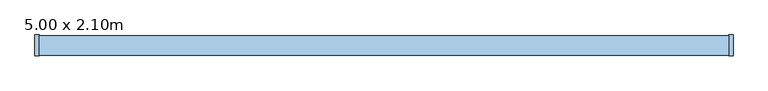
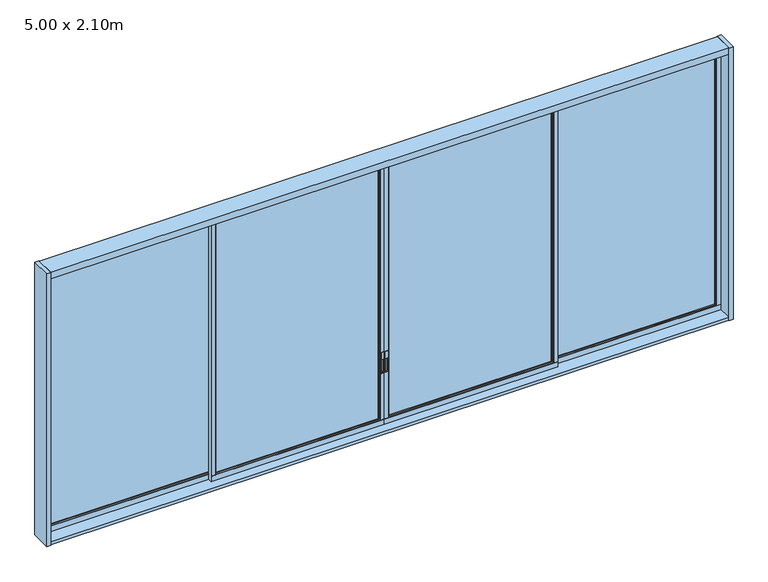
"""IFC4 building model written with IfcOpenShell, lengths in millimetres: window geometry, Janela correr - vidro c.perfil 4 folhas centrais : 5.00 x 2.10m."""

from ifc_helpers import new_model, si_unit, frame, origin, place, context, project, spatial, polyline, outline, extrude, faceted_brep, source, transform, mapped, element, save


def window_5_00_x_2_10m_6df3651b(model_context):
    return source(origin(), model_context, "Body", "SolidModel", [
        extrude(outline(polyline([(1585.0, 5.0), (1425.0, 5.0), (1425.0, 25.0), (1585.0, 25.0), (1585.0, 5.0)]), holes=[polyline([(1529.4849874, 20.7469534), (1434.0872422, 20.7469534), (1434.0872422, 9.1918677), (1529.4849874, 9.1918677), (1529.4849874, 20.7469534)])]), frame((0.0, -7.3991119, 0.0), z_axis=(0.0, 1.0, 0.0), x_axis=(0.0, 0.0, 1.0)), (0.0, 0.0, 1.0), 2.3991119),
        extrude(outline(polyline([(40.0, 7.672758), (40.0, 12.9358747), (1222.5, 12.9358747), (1222.5, 7.672758), (40.0, 7.672758)])), frame((0.0, 0.0, 1075.0), z_axis=(0.0, 0.0, 1.0), x_axis=(1.0, 0.0, 0.0)), (0.0, 0.0, 1.0), 1925.0),
        faceted_brep([(1262.5, -5.0, 3050.0), (1262.5, -5.0, 3010.0), (1262.5, -4.375, 3010.0), (1262.5, -4.375, 1065.0), (1262.5, -5.0, 1065.0), (1262.5, -5.0, 1025.0), (1262.5, 25.0, 1025.0), (1262.5, 25.0, 1065.0), (1262.5, 24.375, 1065.0), (1262.5, 24.375, 3010.0), (1262.5, 25.0, 3010.0), (1262.5, 25.0, 3050.0), (0.0, -5.0, 3050.0), (0.0, 25.0, 3050.0), (0.0, 25.0, 3010.0), (0.0, 23.75, 3010.0), (0.0, 23.75, 1065.0), (0.0, 25.0, 1065.0), (0.0, 25.0, 1025.0), (0.0, -5.0, 1025.0), (0.0, -5.0, 1065.0), (0.0, -3.75, 1065.0), (0.0, -3.75, 3010.0), (0.0, -5.0, 3010.0), (1232.5, 24.375, 3010.0), (1232.5, 20.0, 3010.0), (30.0, 20.0, 3010.0), (30.0, 23.75, 3010.0), (1232.5, 20.0, 1065.0), (30.0, 20.0, 1065.0), (40.0, 20.0, 3000.0), (40.0, 20.0, 1075.0), (1222.5, 20.0, 1075.0), (1222.5, 20.0, 3000.0), (1222.5, 0.0, 3000.0), (40.0, 0.0, 3000.0), (30.0, 0.0, 3010.0), (30.0, 0.0, 1065.0), (1232.5, 0.0, 1065.0), (1232.5, 0.0, 3010.0), (1222.5, 0.0, 1075.0), (40.0, 0.0, 1075.0), (30.0, -3.75, 3010.0), (1232.5, -4.375, 3010.0), (1232.5, 24.375, 1065.0), (1232.5, -4.375, 1065.0), (30.0, 23.75, 1065.0), (30.0, -3.75, 1065.0)], [[[0, 1, 2, 3, 4, 5, 6, 7, 8, 9, 10, 11]], [[12, 13, 14, 15, 16, 17, 18, 19, 20, 21, 22, 23]], [[11, 13, 12, 0]], [[10, 14, 13, 11]], [[10, 9, 24, 25, 26, 27, 15, 14]], [[25, 28, 29, 26], [30, 31, 32, 33]], [[34, 35, 30, 33]], [[36, 37, 38, 39], [34, 40, 41, 35]], [[23, 22, 42, 36, 39, 43, 2, 1]], [[0, 12, 23, 1]], [[8, 44, 24, 9]], [[44, 28, 25, 24]], [[33, 32, 40, 34]], [[43, 39, 38, 45]], [[2, 43, 45, 3]], [[15, 27, 46, 16]], [[27, 26, 29, 46]], [[35, 41, 31, 30]], [[47, 37, 36, 42]], [[21, 47, 42, 22]], [[18, 6, 5, 19]], [[17, 7, 6, 18]], [[17, 16, 46, 29, 28, 44, 8, 7]], [[40, 32, 31, 41]], [[4, 3, 45, 38, 37, 47, 21, 20]], [[19, 5, 4, 20]]]),
        extrude(outline(polyline([(1585.0, -5.0), (1585.0, -25.0), (1425.0, -25.0), (1425.0, -5.0), (1585.0, -5.0)]), holes=[polyline([(1529.4849874, -20.7469534), (1529.4849874, -9.1918677), (1434.0872422, -9.1918677), (1434.0872422, -20.7469534), (1529.4849874, -20.7469534)])]), frame((0.0, -7.3991119, 0.0), z_axis=(0.0, 1.0, 0.0), x_axis=(0.0, 0.0, 1.0)), (0.0, 0.0, 1.0), 2.3991119),
        extrude(outline(polyline([(-40.0, 7.672758), (-1222.5, 7.672758), (-1222.5, 12.9358747), (-40.0, 12.9358747), (-40.0, 7.672758)])), frame((0.0, 0.0, 1075.0), z_axis=(0.0, 0.0, 1.0), x_axis=(1.0, 0.0, 0.0)), (0.0, 0.0, 1.0), 1925.0),
        faceted_brep([(-1262.5, -5.0, 3050.0), (-1262.5, 25.0, 3050.0), (-1262.5, 25.0, 3010.0), (-1262.5, 24.375, 3010.0), (-1262.5, 24.375, 1065.0), (-1262.5, 25.0, 1065.0), (-1262.5, 25.0, 1025.0), (-1262.5, -5.0, 1025.0), (-1262.5, -5.0, 1065.0), (-1262.5, -4.375, 1065.0), (-1262.5, -4.375, 3010.0), (-1262.5, -5.0, 3010.0), (0.0, -5.0, 3050.0), (0.0, -5.0, 3010.0), (0.0, -3.75, 3010.0), (0.0, -3.75, 1065.0), (0.0, -5.0, 1065.0), (0.0, -5.0, 1025.0), (0.0, 25.0, 1025.0), (0.0, 25.0, 1065.0), (0.0, 23.75, 1065.0), (0.0, 23.75, 3010.0), (0.0, 25.0, 3010.0), (0.0, 25.0, 3050.0), (-30.0, 23.75, 3010.0), (-30.0, 20.0, 3010.0), (-1232.5, 20.0, 3010.0), (-1232.5, 24.375, 3010.0), (-30.0, 20.0, 1065.0), (-1232.5, 20.0, 1065.0), (-40.0, 20.0, 3000.0), (-1222.5, 20.0, 3000.0), (-1222.5, 20.0, 1075.0), (-40.0, 20.0, 1075.0), (-1222.5, 0.0, 3000.0), (-40.0, 0.0, 3000.0), (-30.0, 0.0, 3010.0), (-1232.5, 0.0, 3010.0), (-1232.5, 0.0, 1065.0), (-30.0, 0.0, 1065.0), (-40.0, 0.0, 1075.0), (-1222.5, 0.0, 1075.0), (-1232.5, -4.375, 3010.0), (-30.0, -3.75, 3010.0), (-1232.5, 24.375, 1065.0), (-1232.5, -4.375, 1065.0), (-30.0, 23.75, 1065.0), (-30.0, -3.75, 1065.0)], [[[0, 1, 2, 3, 4, 5, 6, 7, 8, 9, 10, 11]], [[12, 13, 14, 15, 16, 17, 18, 19, 20, 21, 22, 23]], [[1, 0, 12, 23]], [[2, 1, 23, 22]], [[2, 22, 21, 24, 25, 26, 27, 3]], [[26, 25, 28, 29], [30, 31, 32, 33]], [[34, 31, 30, 35]], [[36, 37, 38, 39], [34, 35, 40, 41]], [[13, 11, 10, 42, 37, 36, 43, 14]], [[0, 11, 13, 12]], [[4, 3, 27, 44]], [[44, 27, 26, 29]], [[31, 34, 41, 32]], [[42, 45, 38, 37]], [[10, 9, 45, 42]], [[21, 20, 46, 24]], [[24, 46, 28, 25]], [[35, 30, 33, 40]], [[47, 43, 36, 39]], [[15, 14, 43, 47]], [[18, 17, 7, 6]], [[19, 18, 6, 5]], [[19, 5, 4, 44, 29, 28, 46, 20]], [[41, 40, 33, 32]], [[8, 16, 15, 47, 39, 38, 45, 9]], [[17, 16, 8, 7]]]),
        extrude(outline(polyline([(2430.0, 37.672758), (1247.5, 37.672758), (1247.5, 42.9358747), (2430.0, 42.9358747), (2430.0, 37.672758)])), frame((0.0, 0.0, 1075.0), z_axis=(0.0, 0.0, 1.0), x_axis=(1.0, 0.0, 0.0)), (0.0, 0.0, 1.0), 1925.0),
        faceted_brep([(1207.5, 25.0, 3050.0), (1207.5, 55.0, 3050.0), (1207.5, 55.0, 3010.0), (1207.5, 54.375, 3010.0), (1207.5, 54.375, 1065.0), (1207.5, 55.0, 1065.0), (1207.5, 55.0, 1025.0), (1207.5, 25.0, 1025.0), (1207.5, 25.0, 1065.0), (1207.5, 25.625, 1065.0), (1207.5, 25.625, 3010.0), (1207.5, 25.0, 3010.0), (2470.0, 25.0, 3050.0), (2470.0, 25.0, 3010.0), (2470.0, 26.25, 3010.0), (2470.0, 26.25, 1065.0), (2470.0, 25.0, 1065.0), (2470.0, 25.0, 1025.0), (2470.0, 55.0, 1025.0), (2470.0, 55.0, 1065.0), (2470.0, 53.75, 1065.0), (2470.0, 53.75, 3010.0), (2470.0, 55.0, 3010.0), (2470.0, 55.0, 3050.0), (2440.0, 53.75, 3010.0), (2440.0, 50.0, 3010.0), (1237.5, 50.0, 3010.0), (1237.5, 54.375, 3010.0), (2440.0, 50.0, 1065.0), (1237.5, 50.0, 1065.0), (2430.0, 50.0, 3000.0), (1247.5, 50.0, 3000.0), (1247.5, 50.0, 1075.0), (2430.0, 50.0, 1075.0), (1247.5, 30.0, 3000.0), (2430.0, 30.0, 3000.0), (2440.0, 30.0, 3010.0), (1237.5, 30.0, 3010.0), (1237.5, 30.0, 1065.0), (2440.0, 30.0, 1065.0), (2430.0, 30.0, 1075.0), (1247.5, 30.0, 1075.0), (1237.5, 25.625, 3010.0), (2440.0, 26.25, 3010.0), (1237.5, 54.375, 1065.0), (1237.5, 25.625, 1065.0), (2440.0, 53.75, 1065.0), (2440.0, 26.25, 1065.0)], [[[0, 1, 2, 3, 4, 5, 6, 7, 8, 9, 10, 11]], [[12, 13, 14, 15, 16, 17, 18, 19, 20, 21, 22, 23]], [[1, 0, 12, 23]], [[2, 1, 23, 22]], [[2, 22, 21, 24, 25, 26, 27, 3]], [[26, 25, 28, 29], [30, 31, 32, 33]], [[34, 31, 30, 35]], [[36, 37, 38, 39], [34, 35, 40, 41]], [[13, 11, 10, 42, 37, 36, 43, 14]], [[0, 11, 13, 12]], [[4, 3, 27, 44]], [[44, 27, 26, 29]], [[31, 34, 41, 32]], [[42, 45, 38, 37]], [[10, 9, 45, 42]], [[21, 20, 46, 24]], [[24, 46, 28, 25]], [[35, 30, 33, 40]], [[47, 43, 36, 39]], [[15, 14, 43, 47]], [[18, 17, 7, 6]], [[19, 18, 6, 5]], [[19, 5, 4, 44, 29, 28, 46, 20]], [[41, 40, 33, 32]], [[8, 16, 15, 47, 39, 38, 45, 9]], [[17, 16, 8, 7]]]),
        extrude(outline(polyline([(-1247.5, 37.672758), (-2430.0, 37.672758), (-2430.0, 42.9358747), (-1247.5, 42.9358747), (-1247.5, 37.672758)])), frame((0.0, 0.0, 1075.0), z_axis=(0.0, 0.0, 1.0), x_axis=(1.0, 0.0, 0.0)), (0.0, 0.0, 1.0), 1925.0),
        faceted_brep([(-2470.0, 25.0, 3050.0), (-2470.0, 55.0, 3050.0), (-2470.0, 55.0, 3010.0), (-2470.0, 54.375, 3010.0), (-2470.0, 54.375, 1065.0), (-2470.0, 55.0, 1065.0), (-2470.0, 55.0, 1025.0), (-2470.0, 25.0, 1025.0), (-2470.0, 25.0, 1065.0), (-2470.0, 25.625, 1065.0), (-2470.0, 25.625, 3010.0), (-2470.0, 25.0, 3010.0), (-1207.5, 25.0, 3050.0), (-1207.5, 25.0, 3010.0), (-1207.5, 26.25, 3010.0), (-1207.5, 26.25, 1065.0), (-1207.5, 25.0, 1065.0), (-1207.5, 25.0, 1025.0), (-1207.5, 55.0, 1025.0), (-1207.5, 55.0, 1065.0), (-1207.5, 53.75, 1065.0), (-1207.5, 53.75, 3010.0), (-1207.5, 55.0, 3010.0), (-1207.5, 55.0, 3050.0), (-1237.5, 53.75, 3010.0), (-1237.5, 50.0, 3010.0), (-2440.0, 50.0, 3010.0), (-2440.0, 54.375, 3010.0), (-1237.5, 50.0, 1065.0), (-2440.0, 50.0, 1065.0), (-1247.5, 50.0, 3000.0), (-2430.0, 50.0, 3000.0), (-2430.0, 50.0, 1075.0), (-1247.5, 50.0, 1075.0), (-2430.0, 30.0, 3000.0), (-1247.5, 30.0, 3000.0), (-1237.5, 30.0, 3010.0), (-2440.0, 30.0, 3010.0), (-2440.0, 30.0, 1065.0), (-1237.5, 30.0, 1065.0), (-1247.5, 30.0, 1075.0), (-2430.0, 30.0, 1075.0), (-2440.0, 25.625, 3010.0), (-1237.5, 26.25, 3010.0), (-2440.0, 54.375, 1065.0), (-2440.0, 25.625, 1065.0), (-1237.5, 53.75, 1065.0), (-1237.5, 26.25, 1065.0)], [[[0, 1, 2, 3, 4, 5, 6, 7, 8, 9, 10, 11]], [[12, 13, 14, 15, 16, 17, 18, 19, 20, 21, 22, 23]], [[1, 0, 12, 23]], [[2, 1, 23, 22]], [[2, 22, 21, 24, 25, 26, 27, 3]], [[26, 25, 28, 29], [30, 31, 32, 33]], [[34, 31, 30, 35]], [[36, 37, 38, 39], [34, 35, 40, 41]], [[13, 11, 10, 42, 37, 36, 43, 14]], [[0, 11, 13, 12]], [[4, 3, 27, 44]], [[44, 27, 26, 29]], [[31, 34, 41, 32]], [[42, 45, 38, 37]], [[10, 9, 45, 42]], [[21, 20, 46, 24]], [[24, 46, 28, 25]], [[35, 30, 33, 40]], [[47, 43, 36, 39]], [[15, 14, 43, 47]], [[18, 17, 7, 6]], [[19, 18, 6, 5]], [[19, 5, 4, 44, 29, 28, 46, 20]], [[41, 40, 33, 32]], [[8, 16, 15, 47, 39, 38, 45, 9]], [[17, 16, 8, 7]]]),
        extrude(outline(polyline([(2470.0, -70.0), (-2470.0, -70.0), (-2470.0, 70.0), (2470.0, 70.0), (2470.0, -70.0)])), frame((0.0, 0.0, 3050.0), z_axis=(0.0, 0.0, 1.0), x_axis=(1.0, 0.0, 0.0)), (0.0, 0.0, 1.0), 50.0),
        extrude(outline(polyline([(2470.0, -70.0), (-2470.0, -70.0), (-2470.0, 70.0), (2470.0, 70.0), (2470.0, -70.0)])), frame((0.0, 0.0, 1000.0), z_axis=(0.0, 0.0, 1.0), x_axis=(1.0, 0.0, 0.0)), (0.0, 0.0, 1.0), 25.0),
        extrude(outline(polyline([(-2470.0, -75.0), (-2500.0, -75.0), (-2500.0, 75.0), (-2470.0, 75.0), (-2470.0, -75.0)])), frame((0.0, 0.0, 1000.0), z_axis=(0.0, 0.0, 1.0), x_axis=(1.0, 0.0, 0.0)), (0.0, 0.0, 1.0), 2100.0),
        extrude(outline(polyline([(2500.0, -75.0), (2470.0, -75.0), (2470.0, 75.0), (2500.0, 75.0), (2500.0, -75.0)])), frame((0.0, 0.0, 1000.0), z_axis=(0.0, 0.0, 1.0), x_axis=(1.0, 0.0, 0.0)), (0.0, 0.0, 1.0), 2100.0),
    ])


if __name__ == "__main__":
    model = new_model("IFC4")
    model_context = context("Model", 3, world=origin())
    ifc_project = project(units=[si_unit("LENGTHUNIT", "METRE", prefix="MILLI")], contexts=[model_context])
    site = spatial("IfcSite", under=ifc_project)
    building = spatial("IfcBuilding", under=site)
    placement = place(None, origin())
    window_5_00_x_2_10m_shape = window_5_00_x_2_10m_6df3651b(model_context)
    element("IfcWindow", 1, ObjectType="Janela correr - vidro c.perfil 4 folhas centrais : 5.00 x 2.10m", at=placement, inside=building, context=model_context, shape_type="MappedRepresentation", body=[
        mapped(window_5_00_x_2_10m_shape, transform((0.0, 0.0, 0.0), x_axis=(1.0, 0.0, 0.0), y_axis=(0.0, 1.0, 0.0), z_axis=(0.0, 0.0, 1.0))),
    ])
    save(model, "model.ifc")
